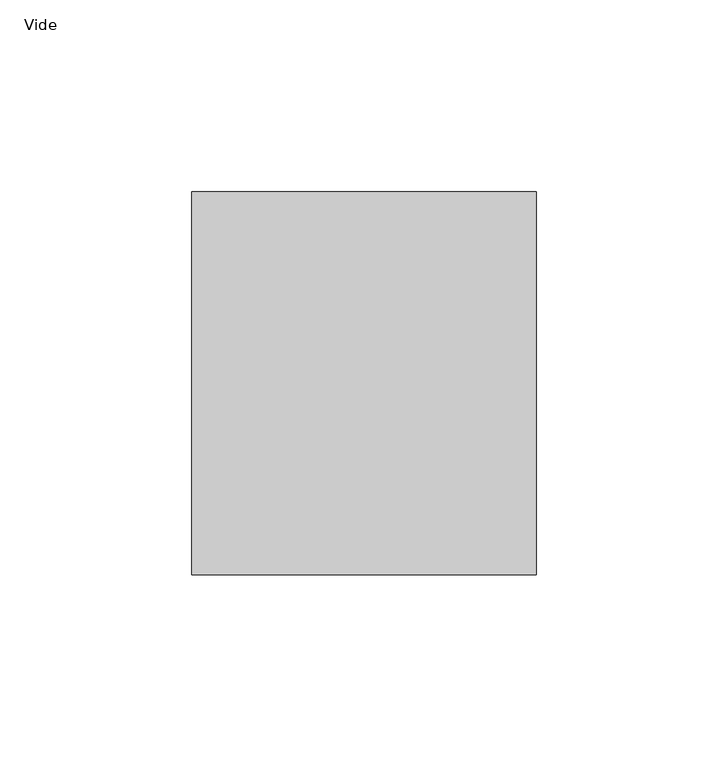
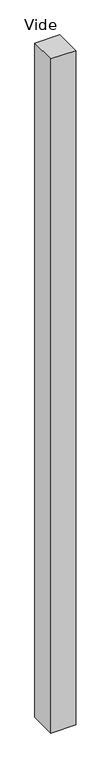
"""IFC4 building model written with IfcOpenShell, lengths in millimetres: plate geometry, Panneau système vide : Vide."""

from ifc_helpers import new_model, si_unit, origin, origin_with_axes, place, context, project, spatial, polyline, outline, extrude, source, transform, mapped, element, save


def vide_da755f3b(model_context):
    return source(origin(), model_context, "Body", "SweptSolid", [
        extrude(outline(polyline([(45.0, 50.0), (-45.0, 50.0), (-45.0, 150.0), (45.0, 150.0), (45.0, 50.0)])), origin_with_axes(), (0.0, 0.0, 1.0), 2588.190451),
    ])


if __name__ == "__main__":
    model = new_model("IFC4")
    model_context = context("Model", 3, world=origin())
    ifc_project = project(units=[si_unit("LENGTHUNIT", "METRE", prefix="MILLI")], contexts=[model_context])
    site = spatial("IfcSite", under=ifc_project)
    building = spatial("IfcBuilding", under=site)
    placement = place(None, origin())
    vide_shape = vide_da755f3b(model_context)
    element("IfcPlate", 1, ObjectType="Panneau système vide : Vide", at=placement, inside=building, context=model_context, shape_type="MappedRepresentation", body=[
        mapped(vide_shape, transform((0.0, 0.0, 0.0), x_axis=(1.0, 0.0, 0.0), y_axis=(0.0, 1.0, 0.0), z_axis=(0.0, 0.0, 1.0))),
    ])
    save(model, "model.ifc")
